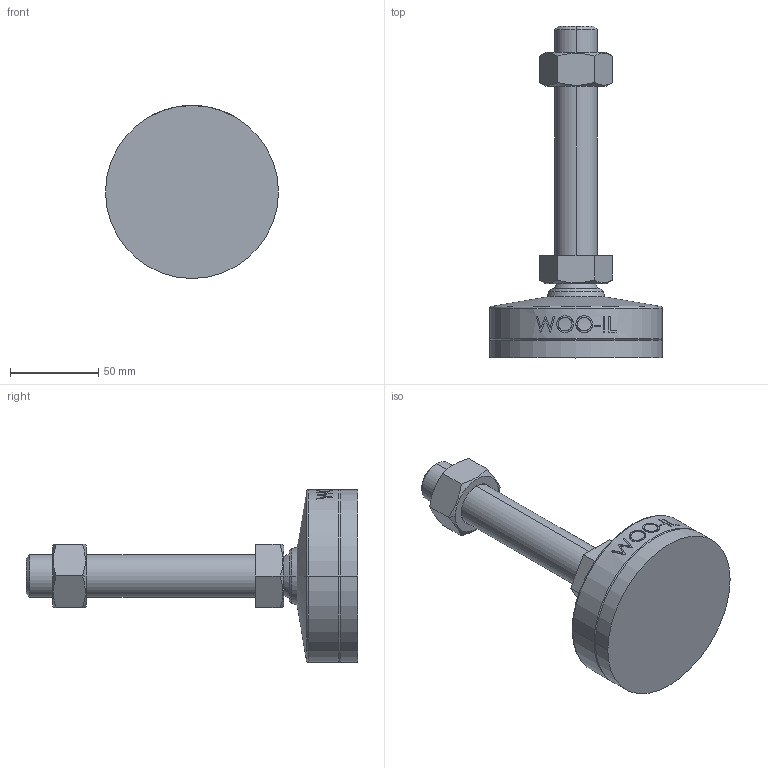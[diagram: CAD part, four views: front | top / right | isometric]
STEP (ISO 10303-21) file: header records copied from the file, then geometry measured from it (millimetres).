
FILE_DESCRIPTION (( 'STEP AP214' ), '1' );
FILE_NAME ('MFNR98-M24-130.step', '2021-02-22T09:09:16', ( '' ), ( '' ), 'SwSTEP 2.0', 'SolidWorks 2019', '' );
FILE_SCHEMA (( 'AUTOMOTIVE_DESIGN' ));
Length unit declared in the file: millimetre
Products named in the file (2): MFNR98-M24-130
Bounding box: 98 x 188 x 98 mm (x, y, z)
Volume: 332300.5 mm3; surface area: 42988.3 mm2
Topology: 2 solids, 2 shells, 103 faces, 239 edges, 152 vertices
Faces by surface type: plane 47, cone 18, cylinder 16, bspline 16, torus 4, sphere 2
Entity records: 4543 total; most frequent: CARTESIAN_POINT 2264, ORIENTED_EDGE 478, DIRECTION 423, EDGE_CURVE 239, AXIS2_PLACEMENT_3D 161, VERTEX_POINT 152, EDGE_LOOP 117, ADVANCED_FACE 103
